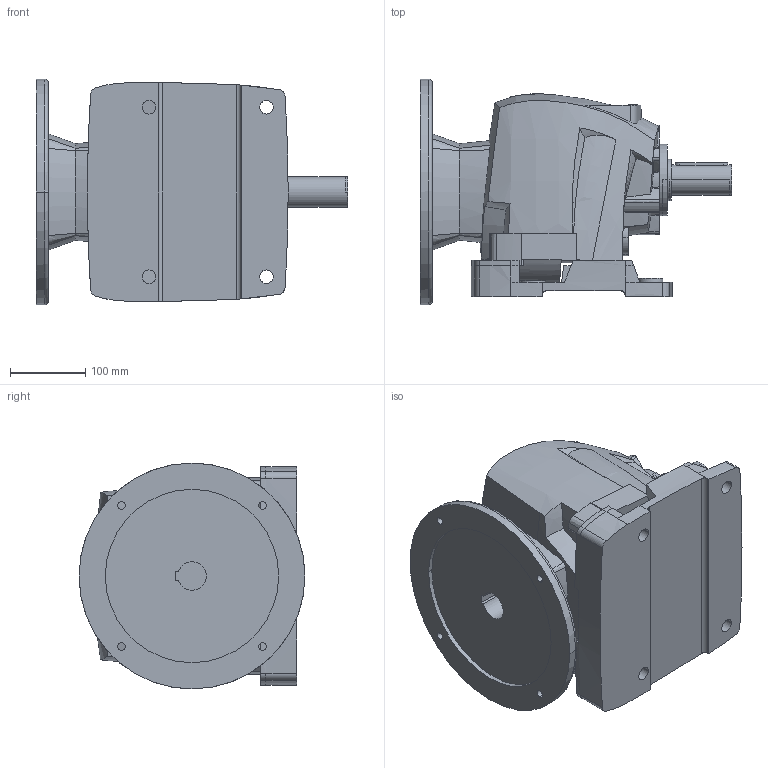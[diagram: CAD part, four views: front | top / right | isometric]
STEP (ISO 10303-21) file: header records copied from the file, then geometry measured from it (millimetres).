
FILE_DESCRIPTION((''),'2;1');
FILE_NAME('R40_BF_PAM132','2013-11-28T',('Luca'),(''),'PRO/ENGINEER BY PARAMETRIC TECHNOLOGY CORPORATION, 2008230','PRO/ENGINEER BY PARAMETRIC TECHNOLOGY CORPORATION, 2008230','');
FILE_SCHEMA(('CONFIG_CONTROL_DESIGN'));
Length unit declared in the file: millimetre
Products named in the file (1): R40_BF_PAM132
Bounding box: 413.5 x 300 x 300 mm (x, y, z)
Volume: 14001984.1 mm3; surface area: 683932.2 mm2
Topology: 1 solids, 1 shells, 509 faces, 1462 edges, 980 vertices
Faces by surface type: cylinder 182, plane 176, bspline 81, extrusion 44, cone 16, torus 10
Entity records: 21559 total; most frequent: CARTESIAN_POINT 9041, ORIENTED_EDGE 2920, DIRECTION 2093, EDGE_CURVE 1460, VERTEX_POINT 980, AXIS2_PLACEMENT_3D 705, VECTOR 683, LINE 639
